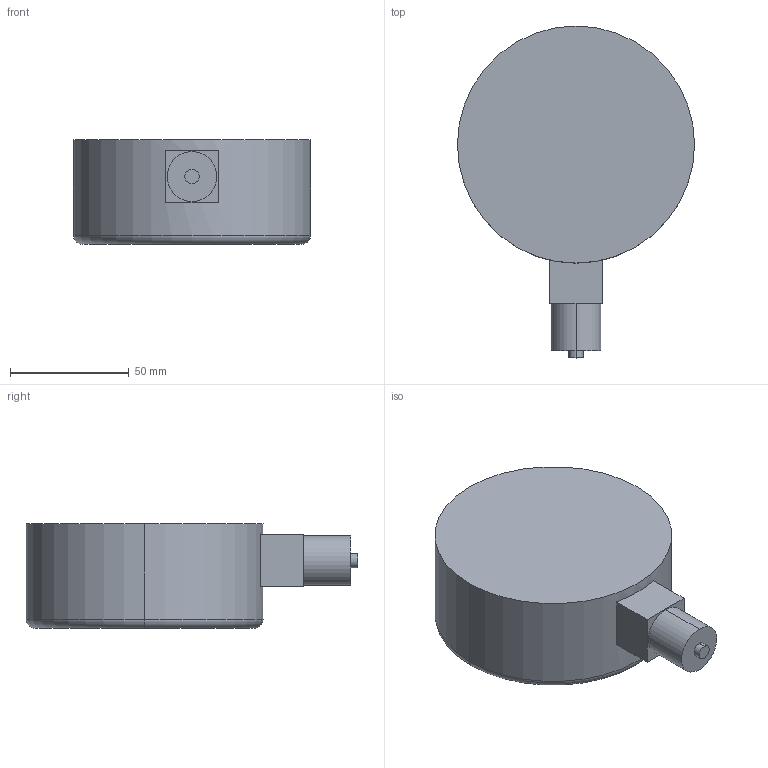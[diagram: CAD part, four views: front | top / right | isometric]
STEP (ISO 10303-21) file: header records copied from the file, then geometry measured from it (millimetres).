
FILE_DESCRIPTION (( 'STEP AP214' ), '1' );
FILE_NAME ('Manometr_puszkowy_x_0_3D_AFRISO.STEP', '2022-12-14T12:37:07', ( '' ), ( '' ), 'SwSTEP 2.0', 'SolidWorks 2022', '' );
FILE_SCHEMA (( 'AUTOMOTIVE_DESIGN' ));
Length unit declared in the file: millimetre
Products named in the file (1): Manometr_puszkowy_x_0_3D_AFRISO
Bounding box: 100 x 140 x 44 mm (x, y, z)
Volume: 360054.9 mm3; surface area: 31952 mm2
Topology: 1 solids, 1 shells, 17 faces, 34 edges, 22 vertices
Faces by surface type: plane 9, cylinder 6, torus 2
Entity records: 484 total; most frequent: DIRECTION 88, CARTESIAN_POINT 74, ORIENTED_EDGE 68, AXIS2_PLACEMENT_3D 36, EDGE_CURVE 34, VERTEX_POINT 22, EDGE_LOOP 20, CIRCLE 18
